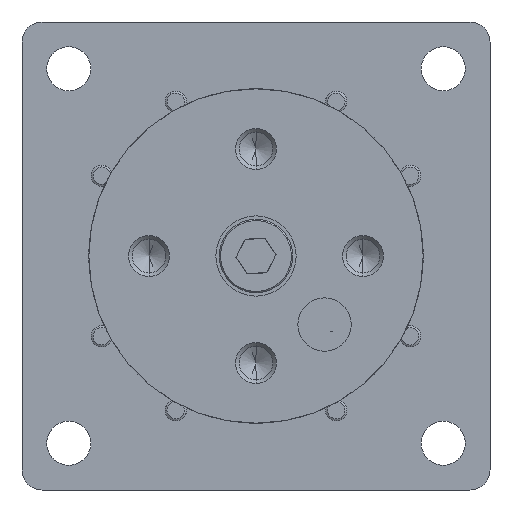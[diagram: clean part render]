
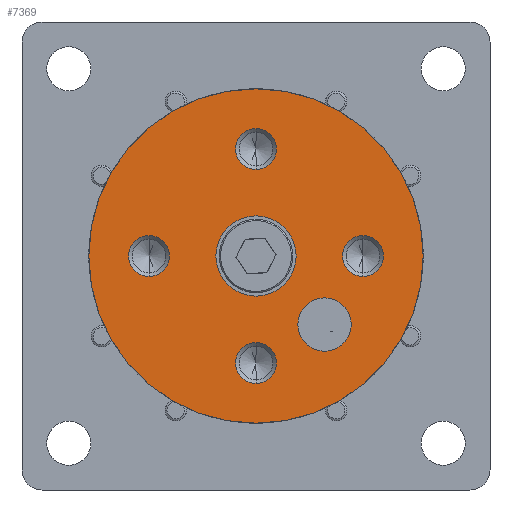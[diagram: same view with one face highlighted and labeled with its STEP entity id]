
A CAD part, front view. The second image highlights one B-rep face of the part: STEP entity #7369.
In plain terms, the highlighted planar face has unit normal (0, -1, 0) as drawn and (0, 1, 0) by its records, which use the part's own axes.
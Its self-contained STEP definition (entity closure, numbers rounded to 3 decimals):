
#385 = DIRECTION ( 'NONE',  ( 0., -1., 0. ) ) ;
#447 = CIRCLE ( 'NONE', #18059, 2. ) ;
#799 = EDGE_CURVE ( 'NONE', #12263, #2403, #6703, .T. ) ;
#1167 = EDGE_CURVE ( 'NONE', #7293, #14836, #17332, .T. ) ;
#1196 = CARTESIAN_POINT ( 'NONE',  ( 7.127, 3., 5.127 ) ) ;
#1325 = CIRCLE ( 'NONE', #12565, 3. ) ;
#1447 = DIRECTION ( 'NONE',  ( 0., 0., 1. ) ) ;
#1771 = AXIS2_PLACEMENT_3D ( 'NONE', #3827, #10936, #16731 ) ;
#1795 = VERTEX_POINT ( 'NONE', #18228 ) ;
#1857 = FACE_OUTER_BOUND ( 'NONE', #15826, .T. ) ;
#1950 = AXIS2_PLACEMENT_3D ( 'NONE', #18667, #15694, #8769 ) ;
#2165 = AXIS2_PLACEMENT_3D ( 'NONE', #3416, #17880, #6374 ) ;
#2403 = VERTEX_POINT ( 'NONE', #14346 ) ;
#2749 = ORIENTED_EDGE ( 'NONE', *, *, #1167, .F. ) ;
#2803 = CARTESIAN_POINT ( 'NONE',  ( 12.5, 3., 0. ) ) ;
#3048 = DIRECTION ( 'NONE',  ( 0., 1., 0. ) ) ;
#3072 = DIRECTION ( 'NONE',  ( 0., 0., 1. ) ) ;
#3416 = CARTESIAN_POINT ( 'NONE',  ( 0., 3., 0. ) ) ;
#3545 = DIRECTION ( 'NONE',  ( 1., 0., 0. ) ) ;
#3751 = CIRCLE ( 'NONE', #12240, 12.5 ) ;
#3827 = CARTESIAN_POINT ( 'NONE',  ( 0., 3., -8. ) ) ;
#3915 = VERTEX_POINT ( 'NONE', #16737 ) ;
#3956 = VERTEX_POINT ( 'NONE', #3995 ) ;
#3995 = CARTESIAN_POINT ( 'NONE',  ( -8., 3., -1.525 ) ) ;
#4023 = DIRECTION ( 'NONE',  ( 0., 1., 0. ) ) ;
#4289 = ORIENTED_EDGE ( 'NONE', *, *, #16427, .F. ) ;
#4512 = DIRECTION ( 'NONE',  ( 0., 0., 1. ) ) ;
#4521 = DIRECTION ( 'NONE',  ( 0., 1., 0. ) ) ;
#4732 = FACE_BOUND ( 'NONE', #18295, .T. ) ;
#4925 = CIRCLE ( 'NONE', #10996, 1.525 ) ;
#5012 = PLANE ( 'NONE',  #16197 ) ;
#5220 = EDGE_LOOP ( 'NONE', ( #16627, #6898 ) ) ;
#5461 = DIRECTION ( 'NONE',  ( 0., -1., 0. ) ) ;
#5586 = CIRCLE ( 'NONE', #12866, 1.525 ) ;
#5673 = CARTESIAN_POINT ( 'NONE',  ( 8., 3., 0. ) ) ;
#5888 = CIRCLE ( 'NONE', #1950, 12.5 ) ;
#6177 = CARTESIAN_POINT ( 'NONE',  ( 0., 3., 6.475 ) ) ;
#6374 = DIRECTION ( 'NONE',  ( 0., 0., 1. ) ) ;
#6393 = VERTEX_POINT ( 'NONE', #14276 ) ;
#6399 = ORIENTED_EDGE ( 'NONE', *, *, #12161, .T. ) ;
#6449 = CARTESIAN_POINT ( 'NONE',  ( -8., 3., 1.525 ) ) ;
#6703 = CIRCLE ( 'NONE', #16114, 1.525 ) ;
#6707 = VERTEX_POINT ( 'NONE', #7020 ) ;
#6776 = EDGE_CURVE ( 'NONE', #12806, #3956, #13458, .T. ) ;
#6898 = ORIENTED_EDGE ( 'NONE', *, *, #16085, .F. ) ;
#7020 = CARTESIAN_POINT ( 'NONE',  ( -12.5, 3., 0. ) ) ;
#7293 = VERTEX_POINT ( 'NONE', #16400 ) ;
#7334 = DIRECTION ( 'NONE',  ( 0., 0., 1. ) ) ;
#7369 = ADVANCED_FACE ( 'NONE', ( #9005, #10525, #17749, #4732, #9094, #14872, #1857 ), #5012, .F. ) ;
#7372 = AXIS2_PLACEMENT_3D ( 'NONE', #7828, #10675, #17719 ) ;
#7383 = EDGE_LOOP ( 'NONE', ( #12362, #11913 ) ) ;
#7685 = AXIS2_PLACEMENT_3D ( 'NONE', #13188, #14892, #16334 ) ;
#7828 = CARTESIAN_POINT ( 'NONE',  ( -8., 3., 0. ) ) ;
#8399 = VERTEX_POINT ( 'NONE', #1196 ) ;
#8769 = DIRECTION ( 'NONE',  ( -1., 0., 0. ) ) ;
#8926 = EDGE_CURVE ( 'NONE', #6393, #3915, #12552, .T. ) ;
#9005 = FACE_BOUND ( 'NONE', #7383, .T. ) ;
#9068 = CIRCLE ( 'NONE', #1771, 1.525 ) ;
#9094 = FACE_BOUND ( 'NONE', #14206, .T. ) ;
#9164 = CARTESIAN_POINT ( 'NONE',  ( 0., 3., -8. ) ) ;
#9277 = CIRCLE ( 'NONE', #18691, 1.525 ) ;
#9448 = EDGE_CURVE ( 'NONE', #14836, #7293, #1325, .T. ) ;
#9564 = DIRECTION ( 'NONE',  ( 0., -1., 0. ) ) ;
#9645 = CARTESIAN_POINT ( 'NONE',  ( 5.127, 3., 5.127 ) ) ;
#10084 = AXIS2_PLACEMENT_3D ( 'NONE', #9645, #5461, #12767 ) ;
#10253 = DIRECTION ( 'NONE',  ( 0., 0., 1. ) ) ;
#10282 = DIRECTION ( 'NONE',  ( 0., 1., 0. ) ) ;
#10288 = CARTESIAN_POINT ( 'NONE',  ( 0., 3., 8. ) ) ;
#10365 = ORIENTED_EDGE ( 'NONE', *, *, #8926, .F. ) ;
#10515 = ORIENTED_EDGE ( 'NONE', *, *, #11518, .F. ) ;
#10525 = FACE_BOUND ( 'NONE', #5220, .T. ) ;
#10675 = DIRECTION ( 'NONE',  ( 0., 1., 0. ) ) ;
#10767 = VERTEX_POINT ( 'NONE', #2803 ) ;
#10936 = DIRECTION ( 'NONE',  ( 0., 1., 0. ) ) ;
#10996 = AXIS2_PLACEMENT_3D ( 'NONE', #11868, #17666, #10253 ) ;
#11260 = DIRECTION ( 'NONE',  ( 0., 0., 1. ) ) ;
#11331 = CARTESIAN_POINT ( 'NONE',  ( 0., 3., 0. ) ) ;
#11518 = EDGE_CURVE ( 'NONE', #2403, #12263, #4925, .T. ) ;
#11537 = CARTESIAN_POINT ( 'NONE',  ( 0., 3., -3. ) ) ;
#11715 = CARTESIAN_POINT ( 'NONE',  ( 0., 3., 0. ) ) ;
#11868 = CARTESIAN_POINT ( 'NONE',  ( 8., 3., 0. ) ) ;
#11913 = ORIENTED_EDGE ( 'NONE', *, *, #12425, .F. ) ;
#12111 = DIRECTION ( 'NONE',  ( 0., 1., 0. ) ) ;
#12161 = EDGE_CURVE ( 'NONE', #1795, #8399, #15848, .T. ) ;
#12240 = AXIS2_PLACEMENT_3D ( 'NONE', #11715, #10282, #17511 ) ;
#12263 = VERTEX_POINT ( 'NONE', #15352 ) ;
#12362 = ORIENTED_EDGE ( 'NONE', *, *, #6776, .F. ) ;
#12425 = EDGE_CURVE ( 'NONE', #3956, #12806, #17386, .T. ) ;
#12552 = CIRCLE ( 'NONE', #17429, 1.525 ) ;
#12565 = AXIS2_PLACEMENT_3D ( 'NONE', #11331, #4023, #1447 ) ;
#12592 = CARTESIAN_POINT ( 'NONE',  ( 0., 3., 0. ) ) ;
#12610 = EDGE_CURVE ( 'NONE', #10767, #6707, #3751, .T. ) ;
#12767 = DIRECTION ( 'NONE',  ( 1., 0., 0. ) ) ;
#12806 = VERTEX_POINT ( 'NONE', #6449 ) ;
#12866 = AXIS2_PLACEMENT_3D ( 'NONE', #10288, #3048, #7334 ) ;
#13020 = ORIENTED_EDGE ( 'NONE', *, *, #13613, .T. ) ;
#13188 = CARTESIAN_POINT ( 'NONE',  ( -8., 3., 0. ) ) ;
#13226 = VERTEX_POINT ( 'NONE', #16193 ) ;
#13402 = CARTESIAN_POINT ( 'NONE',  ( 5.127, 3., 5.127 ) ) ;
#13414 = EDGE_CURVE ( 'NONE', #6707, #10767, #5888, .T. ) ;
#13453 = EDGE_CURVE ( 'NONE', #13226, #14009, #5586, .T. ) ;
#13458 = CIRCLE ( 'NONE', #7685, 1.525 ) ;
#13613 = EDGE_CURVE ( 'NONE', #8399, #1795, #447, .T. ) ;
#14009 = VERTEX_POINT ( 'NONE', #6177 ) ;
#14206 = EDGE_LOOP ( 'NONE', ( #2749, #16851 ) ) ;
#14276 = CARTESIAN_POINT ( 'NONE',  ( 0., 3., -9.525 ) ) ;
#14346 = CARTESIAN_POINT ( 'NONE',  ( 8., 3., -1.525 ) ) ;
#14836 = VERTEX_POINT ( 'NONE', #11537 ) ;
#14858 = ORIENTED_EDGE ( 'NONE', *, *, #799, .F. ) ;
#14872 = FACE_BOUND ( 'NONE', #14987, .T. ) ;
#14892 = DIRECTION ( 'NONE',  ( 0., 1., 0. ) ) ;
#14987 = EDGE_LOOP ( 'NONE', ( #13020, #6399 ) ) ;
#15352 = CARTESIAN_POINT ( 'NONE',  ( 8., 3., 1.525 ) ) ;
#15694 = DIRECTION ( 'NONE',  ( 0., 1., 0. ) ) ;
#15826 = EDGE_LOOP ( 'NONE', ( #18747, #17297 ) ) ;
#15848 = CIRCLE ( 'NONE', #10084, 2. ) ;
#16085 = EDGE_CURVE ( 'NONE', #14009, #13226, #9277, .T. ) ;
#16114 = AXIS2_PLACEMENT_3D ( 'NONE', #5673, #18598, #11260 ) ;
#16193 = CARTESIAN_POINT ( 'NONE',  ( 0., 3., 9.525 ) ) ;
#16197 = AXIS2_PLACEMENT_3D ( 'NONE', #12592, #9564, #18135 ) ;
#16199 = CARTESIAN_POINT ( 'NONE',  ( 0., 3., 8. ) ) ;
#16334 = DIRECTION ( 'NONE',  ( 0., 0., 1. ) ) ;
#16400 = CARTESIAN_POINT ( 'NONE',  ( 0., 3., 3. ) ) ;
#16427 = EDGE_CURVE ( 'NONE', #3915, #6393, #9068, .T. ) ;
#16627 = ORIENTED_EDGE ( 'NONE', *, *, #13453, .F. ) ;
#16731 = DIRECTION ( 'NONE',  ( 0., 0., 1. ) ) ;
#16737 = CARTESIAN_POINT ( 'NONE',  ( 0., 3., -6.475 ) ) ;
#16851 = ORIENTED_EDGE ( 'NONE', *, *, #9448, .F. ) ;
#17297 = ORIENTED_EDGE ( 'NONE', *, *, #12610, .T. ) ;
#17332 = CIRCLE ( 'NONE', #2165, 3. ) ;
#17386 = CIRCLE ( 'NONE', #7372, 1.525 ) ;
#17429 = AXIS2_PLACEMENT_3D ( 'NONE', #9164, #12111, #4512 ) ;
#17511 = DIRECTION ( 'NONE',  ( -1., 0., 0. ) ) ;
#17666 = DIRECTION ( 'NONE',  ( 0., 1., 0. ) ) ;
#17719 = DIRECTION ( 'NONE',  ( 0., 0., 1. ) ) ;
#17749 = FACE_BOUND ( 'NONE', #18119, .T. ) ;
#17880 = DIRECTION ( 'NONE',  ( 0., 1., 0. ) ) ;
#18059 = AXIS2_PLACEMENT_3D ( 'NONE', #13402, #385, #3545 ) ;
#18119 = EDGE_LOOP ( 'NONE', ( #4289, #10365 ) ) ;
#18135 = DIRECTION ( 'NONE',  ( 0., 0., -1. ) ) ;
#18228 = CARTESIAN_POINT ( 'NONE',  ( 3.127, 3., 5.127 ) ) ;
#18295 = EDGE_LOOP ( 'NONE', ( #14858, #10515 ) ) ;
#18598 = DIRECTION ( 'NONE',  ( 0., 1., 0. ) ) ;
#18667 = CARTESIAN_POINT ( 'NONE',  ( 0., 3., 0. ) ) ;
#18691 = AXIS2_PLACEMENT_3D ( 'NONE', #16199, #4521, #3072 ) ;
#18747 = ORIENTED_EDGE ( 'NONE', *, *, #13414, .T. ) ;
